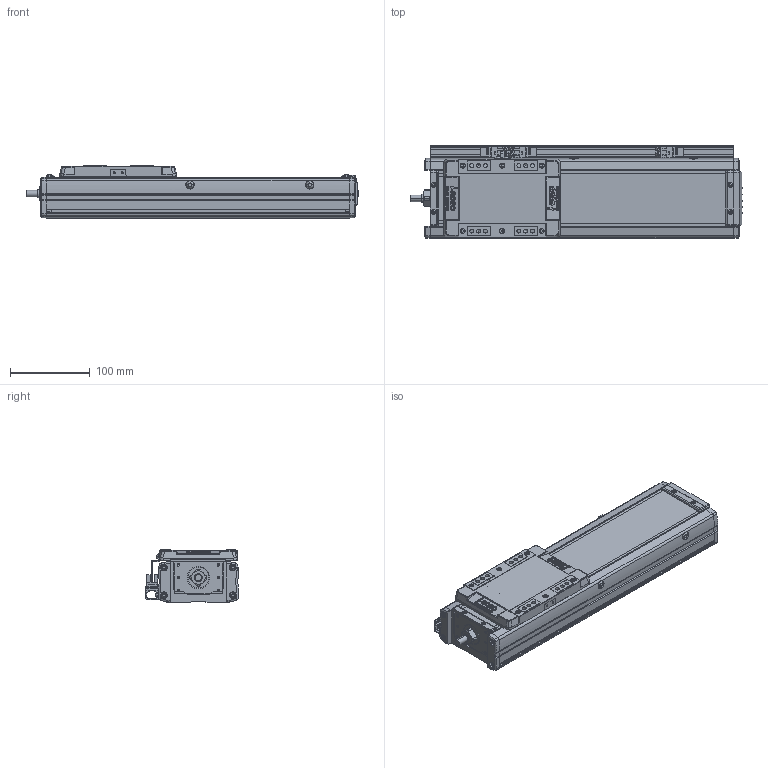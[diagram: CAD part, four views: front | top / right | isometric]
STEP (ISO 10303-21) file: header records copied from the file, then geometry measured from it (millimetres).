
FILE_DESCRIPTION(('STEP AP214'),'1');
FILE_NAME('Z:/Web/3D/SAN100/SAN100 양산용 (STEP)/SAN100ㅁㅁ-200+3SL.stp','2013-04-25T00:41:45',(' '),(' '),'Spatial InterOp 3D',' ',' ');
FILE_SCHEMA(('automotive_design'));
Length unit declared in the file: millimetre
Products named in the file (52): SGD-SAN100; M3.0 x 6.0; SRL-16x17-380L; EE-SX674; SBK-SX674-352; 스크루 : Round - M3.0 x 6.0; SUS COVER; SFX-SAN100; RRCV-SAN100; 스크루 : Round - M4.0 x 10.0; FRBL-SAN100; SLBL-SAN100; SLCV-SAN100; 스크루 : Countersunk - M3.0 x 6.0; BASE; 스크루 : Round - M5.0 x 6.0; 너트 : Square - M10.0 x 220.7419; RR1500-000L; FRCV-SAN100
Bounding box: 416 x 116 x 66 mm (x, y, z)
Volume: 1235022.3 mm3; surface area: 375981.8 mm2
Topology: 52 solids, 53 shells, 2411 faces, 6266 edges, 4059 vertices
Faces by surface type: plane 1318, cylinder 785, cone 206, sphere 64, torus 26, bspline 12
Entity records: 94969 total; most frequent: CARTESIAN_POINT 14174, DIRECTION 13157, ORIENTED_EDGE 12384, EDGE_CURVE 6192, AXIS2_PLACEMENT_3D 4631, VERTEX_POINT 4059, LINE 3895, VECTOR 3895
